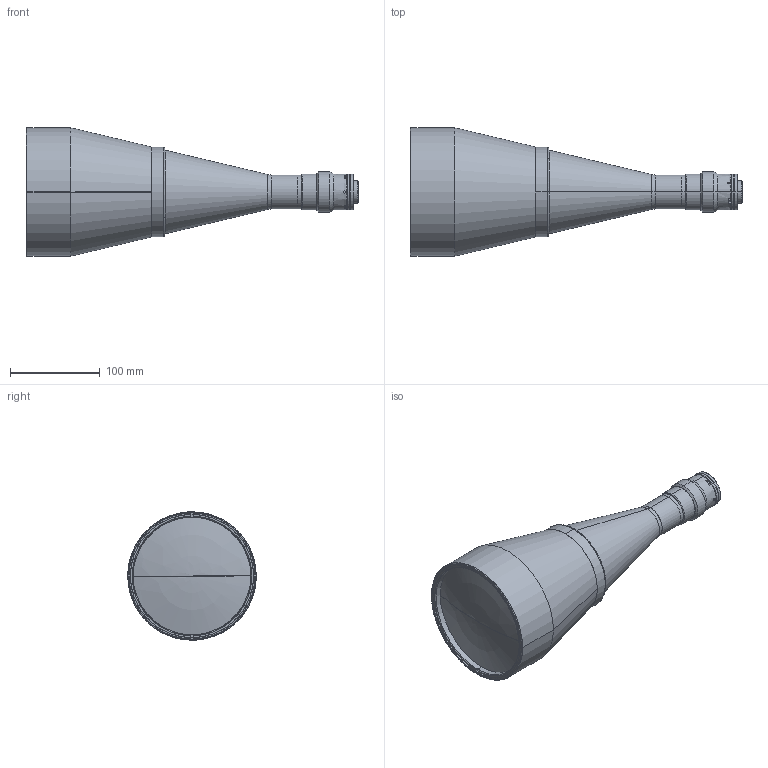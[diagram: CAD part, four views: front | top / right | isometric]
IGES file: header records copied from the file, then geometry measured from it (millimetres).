
Start section: SolidWorks IGES file using analytic representation for surfaces
Global section: file name: \\172.16.20.198\dati\R&D\01 archivio\DPXXXXX-X\DP31710-A_TC2MHRP096-C.igs; native system: SolidWorks 2021; preprocessor: SolidWorks 2021; author: lrizzotto; date: 220211.110131; units: millimetre
Bounding box: 369.71 x 143 x 143 mm (x, y, z)
Surface area: 135853.5 mm2 (no closed solid volume)
Topology: 0 solids, 0 shells, 107 faces, 2175 edges, 2174 vertices
Faces by surface type: revolution 68, bspline 39
